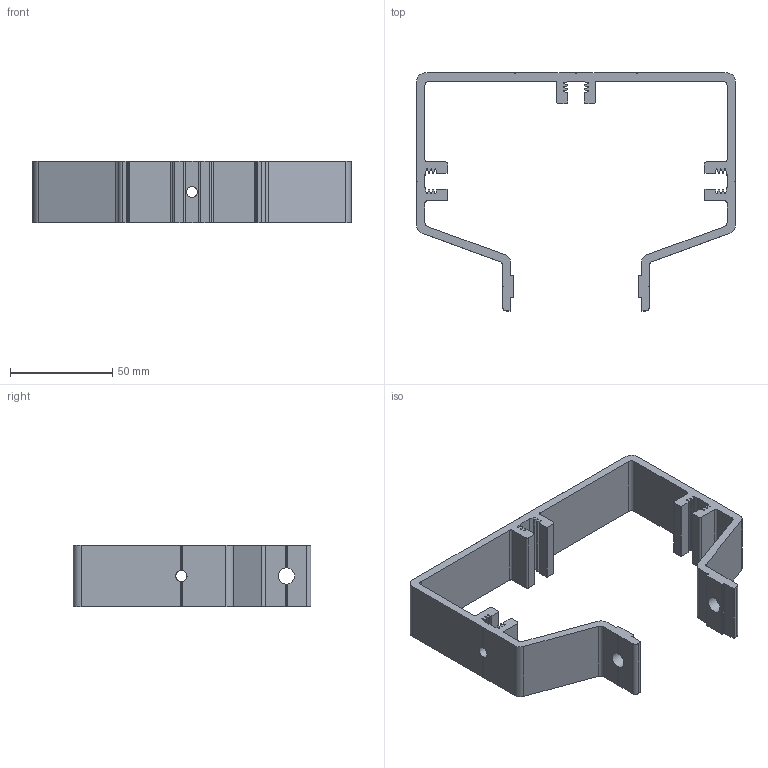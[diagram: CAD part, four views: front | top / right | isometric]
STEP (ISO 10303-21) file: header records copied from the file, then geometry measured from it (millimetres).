
FILE_DESCRIPTION(/* description */ ('GUIDE RAIL BRACKET FOR S620'),/* implementation_level */ '2;1');
FILE_NAME(/* name */ '\\carryline.intra\privat\users\mathias\Desktop\Tillfälliga filer\300-2160.stp',/* time_stamp */ '2018-11-30T09:34:08+01:00',/* author */ ('MOB'),/* organization */ ('CARRYLINE'),/* preprocessor_version */ 'ST-DEVELOPER v17',/* originating_system */ 'Autodesk Inventor 2018',/* authorisation */ '');
FILE_SCHEMA (('AUTOMOTIVE_DESIGN { 1 0 10303 214 3 1 1 }'));
Length unit declared in the file: millimetre
Products named in the file (1): 300-2160
Bounding box: 156 x 116.6 x 30 mm (x, y, z)
Volume: 62478.5 mm3; surface area: 36189.6 mm2
Topology: 1 solids, 1 shells, 230 faces, 699 edges, 466 vertices
Faces by surface type: plane 117, cylinder 113
Full cylindrical faces by diameter (mm): 5.5 x3, 8 x2
Entity records: 8018 total; most frequent: CARTESIAN_POINT 1496, ORIENTED_EDGE 1398, DIRECTION 1377, EDGE_CURVE 699, AXIS2_PLACEMENT_3D 467, VERTEX_POINT 466, LINE 443, VECTOR 443
